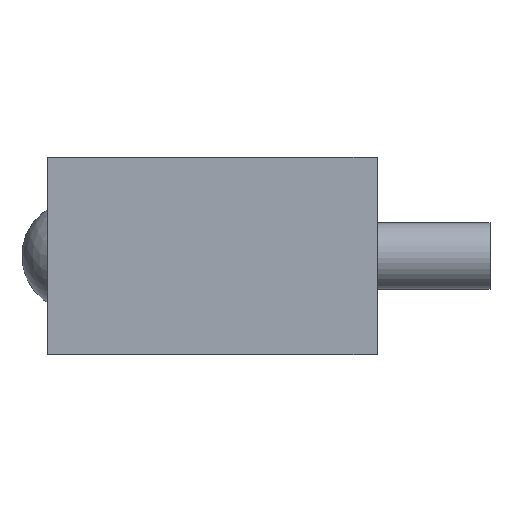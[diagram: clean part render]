
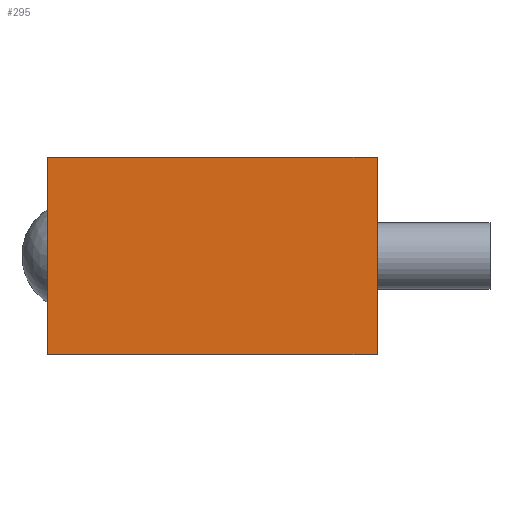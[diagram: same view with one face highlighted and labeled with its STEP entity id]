
A CAD part, left-side view. The second image highlights one B-rep face of the part: STEP entity #295.
In plain terms, the highlighted planar face has unit normal (-1, 0, 0).
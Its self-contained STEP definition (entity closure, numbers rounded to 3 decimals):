
#21=LINE('',#478,#37);
#27=LINE('',#493,#43);
#31=LINE('',#505,#47);
#33=LINE('',#508,#49);
#37=VECTOR('',#402,10.);
#43=VECTOR('',#412,10.);
#47=VECTOR('',#428,10.);
#49=VECTOR('',#432,10.);
#71=PLANE('',#349);
#90=FACE_OUTER_BOUND('',#118,.T.);
#118=EDGE_LOOP('',(#240,#241,#242,#243));
#148=VERTEX_POINT('',#476);
#149=VERTEX_POINT('',#477);
#155=VERTEX_POINT('',#490);
#156=VERTEX_POINT('',#492);
#173=EDGE_CURVE('',#148,#149,#21,.T.);
#180=EDGE_CURVE('',#155,#156,#27,.T.);
#186=EDGE_CURVE('',#156,#148,#31,.T.);
#188=EDGE_CURVE('',#149,#155,#33,.T.);
#240=ORIENTED_EDGE('',*,*,#180,.F.);
#241=ORIENTED_EDGE('',*,*,#188,.F.);
#242=ORIENTED_EDGE('',*,*,#173,.F.);
#243=ORIENTED_EDGE('',*,*,#186,.F.);
#295=ADVANCED_FACE('',(#90),#71,.T.);
#349=AXIS2_PLACEMENT_3D('',#507,#430,#431);
#402=DIRECTION('',(0.,0.,1.));
#412=DIRECTION('',(0.,0.,-1.));
#428=DIRECTION('',(0.,1.,0.));
#430=DIRECTION('center_axis',(-1.,0.,0.));
#431=DIRECTION('ref_axis',(0.,-1.,0.));
#432=DIRECTION('',(0.,-1.,0.));
#476=CARTESIAN_POINT('',(-60.,14.9,-8.9));
#477=CARTESIAN_POINT('',(-60.,14.9,8.9));
#478=CARTESIAN_POINT('',(-60.,14.9,0.));
#490=CARTESIAN_POINT('',(-60.,-14.9,8.9));
#492=CARTESIAN_POINT('',(-60.,-14.9,-8.9));
#493=CARTESIAN_POINT('',(-60.,-14.9,0.));
#505=CARTESIAN_POINT('',(-60.,14.9,-8.9));
#507=CARTESIAN_POINT('Origin',(-60.,14.9,0.));
#508=CARTESIAN_POINT('',(-60.,14.9,8.9));
